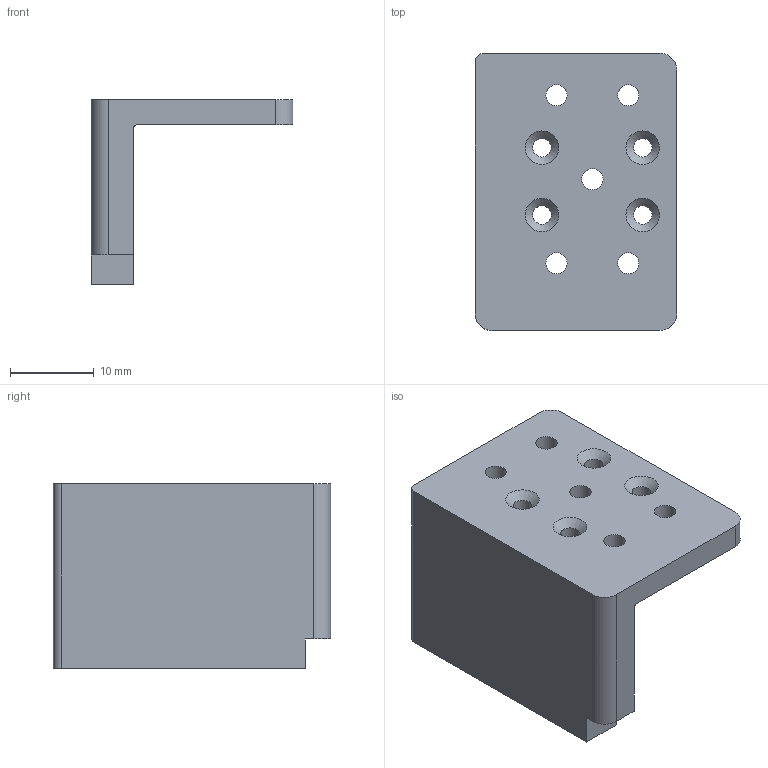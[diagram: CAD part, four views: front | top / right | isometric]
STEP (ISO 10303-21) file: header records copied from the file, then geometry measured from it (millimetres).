
FILE_DESCRIPTION(/* description */ (''),/* implementation_level */ '2;1');
FILE_NAME(/* name */ 'CARRIAGE MOUNT.step',/* time_stamp */ '2026-10-23T15:25:11+05:30',/* author */ (''),/* organization */ (''),/* preprocessor_version */ 'ST-DEVELOPER v20.2',/* originating_system */ 'Autodesk Translation Framework v15.15.0.0',/* authorisation */ '');
FILE_SCHEMA (('AUTOMOTIVE_DESIGN { 1 0 10303 214 3 1 1 }'));
Length unit declared in the file: millimetre
Products named in the file (1): 2026-10-23-15-25-11-073
Bounding box: 24 x 33 x 22 mm (x, y, z)
Volume: 5178.7 mm3; surface area: 3607.8 mm2
Topology: 1 solids, 1 shells, 32 faces, 80 edges, 52 vertices
Faces by surface type: cylinder 16, plane 12, cone 4
Full cylindrical faces by diameter (mm): 2.2 x4, 2.529 x7
Entity records: 1037 total; most frequent: DIRECTION 182, CARTESIAN_POINT 165, ORIENTED_EDGE 160, EDGE_CURVE 80, AXIS2_PLACEMENT_3D 69, EDGE_LOOP 52, VERTEX_POINT 52, LINE 44
